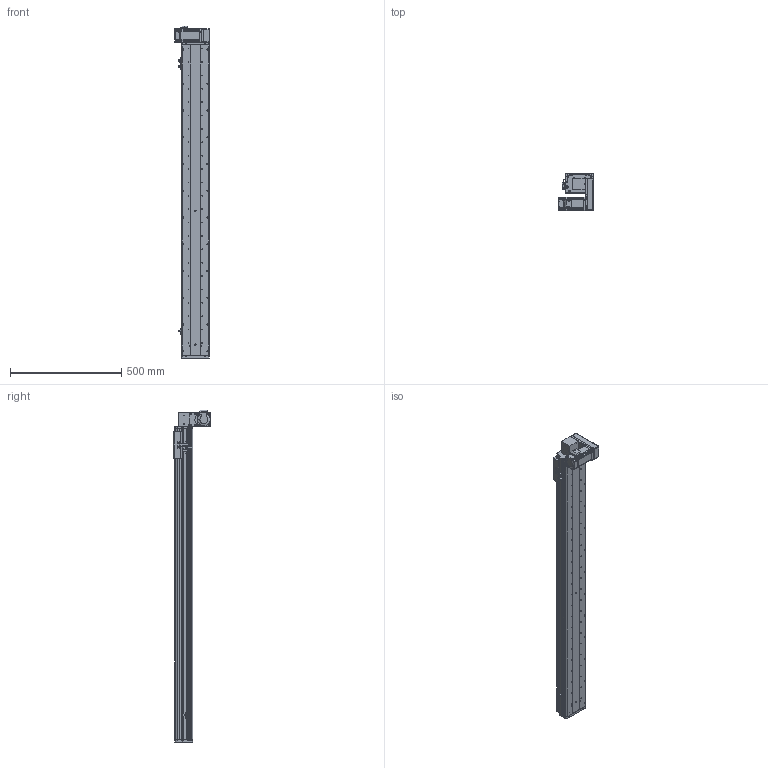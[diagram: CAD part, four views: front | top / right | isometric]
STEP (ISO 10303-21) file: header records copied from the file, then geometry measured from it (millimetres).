
FILE_DESCRIPTION (( 'STEP AP214' ), '1' );
FILE_NAME ('KSD125B-S1200-MLD-CM.STEP', '2017-10-21T02:58:59', ( '微软用户' ), ( '微软中国' ), 'SwSTEP 2.0', 'SolidWorks 2014', '' );
FILE_SCHEMA (( 'AUTOMOTIVE_DESIGN' ));
Length unit declared in the file: millimetre
Products named in the file (17): U倰嫖萇假蚾璃; U倰嫖萇EEㄜSX672; KSD125模组同步带-防撞垫1; 前端板-125宽模组同步带; 125模组同步带-尾端板1; KSD125模组同步带-滑动座1; KSD125B-S1200-MLD-CM; 悵誘欶奻狟殏; 100宽马达安装板连板上下折丝杆同步带; HTPA30S3M150_A_H6_a佪裝蚚; HTPA30S3M150_A_H6_a萇儂蚚; 100宽马达安装板同步带左; KSD125模组1200行程同步带-防尘盖; 125模组1200行程同步带-底板; MHMD042G1CA_2_03; KSD125模组同步带-防撞垫2; 覜茼え68遵圉猾敕
Assembly tree (20 placements, depth 2):
  KSD125B-S1200-MLD-CM
    KSD125模组同步带-滑动座1
    125模组同步带-尾端板1
    前端板-125宽模组同步带
    KSD125模组同步带-防撞垫1
    U倰嫖萇EEㄜSX672  x3
    U倰嫖萇假蚾璃  x3
    覜茼え68遵圉猾敕
    KSD125模组同步带-防撞垫2
    MHMD042G1CA_2_03
    125模组1200行程同步带-底板
    KSD125模组1200行程同步带-防尘盖
    100宽马达安装板同步带左
    HTPA30S3M150_A_H6_a萇儂蚚
    HTPA30S3M150_A_H6_a佪裝蚚
    100宽马达安装板连板上下折丝杆同步带
    悵誘欶奻狟殏
Bounding box: 155 x 166.5 x 1489 mm (x, y, z)
Volume: 4458897.3 mm3; surface area: 1489175.5 mm2
Topology: 19 solids, 22 shells, 2347 faces, 6805 edges, 4498 vertices
Faces by surface type: cylinder 1488, plane 732, cone 105, bspline 22
Entity records: 83843 total; most frequent: CARTESIAN_POINT 16515, DIRECTION 13026, ORIENTED_EDGE 12130, EDGE_CURVE 6143, AXIS2_PLACEMENT_3D 5049, VERTEX_POINT 4090, VECTOR 2928, LINE 2928
